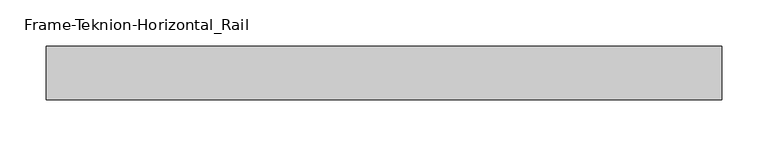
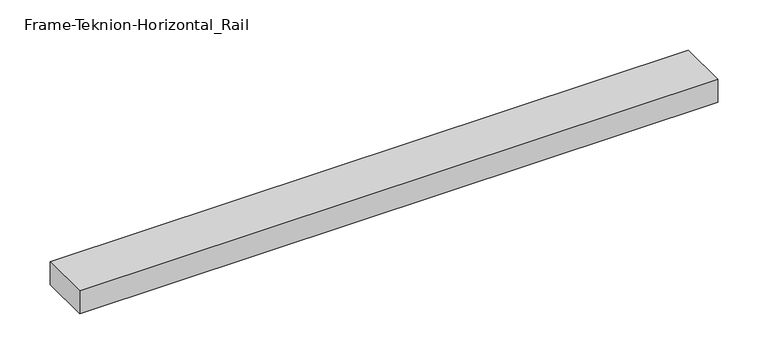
"""IFC4 building model written with IfcOpenShell, lengths in millimetres: proxy geometry, Frame-Teknion-Horizontal_Rail : FPKK."""

from ifc_helpers import new_model, si_unit, frame, origin, place, context, project, spatial, polyline, outline, extrude, source, transform, mapped, element, save


def frame_teknion_horizontal_rail_791af6a0(model_context):
    return source(origin(), model_context, "Body", "SweptSolid", [
        extrude(outline(polyline([(-367.0101562, -29.2199219), (-367.0101562, 29.2199219), (367.0101563, 29.2199219), (367.0101563, -29.2199219), (-367.0101562, -29.2199219)])), frame((0.0, 0.0, -13.9898438), z_axis=(0.0, 0.0, 1.0), x_axis=(1.0, 0.0, 0.0)), (0.0, 0.0, 1.0), 27.9796875),
    ])


if __name__ == "__main__":
    model = new_model("IFC4")
    model_context = context("Model", 3, world=origin())
    ifc_project = project(units=[si_unit("LENGTHUNIT", "METRE", prefix="MILLI")], contexts=[model_context])
    site = spatial("IfcSite", under=ifc_project)
    building = spatial("IfcBuilding", under=site)
    placement = place(None, origin())
    frame_teknion_horizontal_rail_shape = frame_teknion_horizontal_rail_791af6a0(model_context)
    element("IfcBuildingElementProxy", 1, Name="Frame-Teknion-Horizontal_Rail : FPKK", ObjectType="Frame-Teknion-Horizontal_Rail : FPKK", at=placement, inside=building, context=model_context, shape_type="MappedRepresentation", body=[
        mapped(frame_teknion_horizontal_rail_shape, transform((0.0, 0.0, 0.0), x_axis=(1.0, 0.0, 0.0), y_axis=(0.0, 1.0, 0.0), z_axis=(0.0, 0.0, 1.0))),
    ])
    save(model, "model.ifc")
